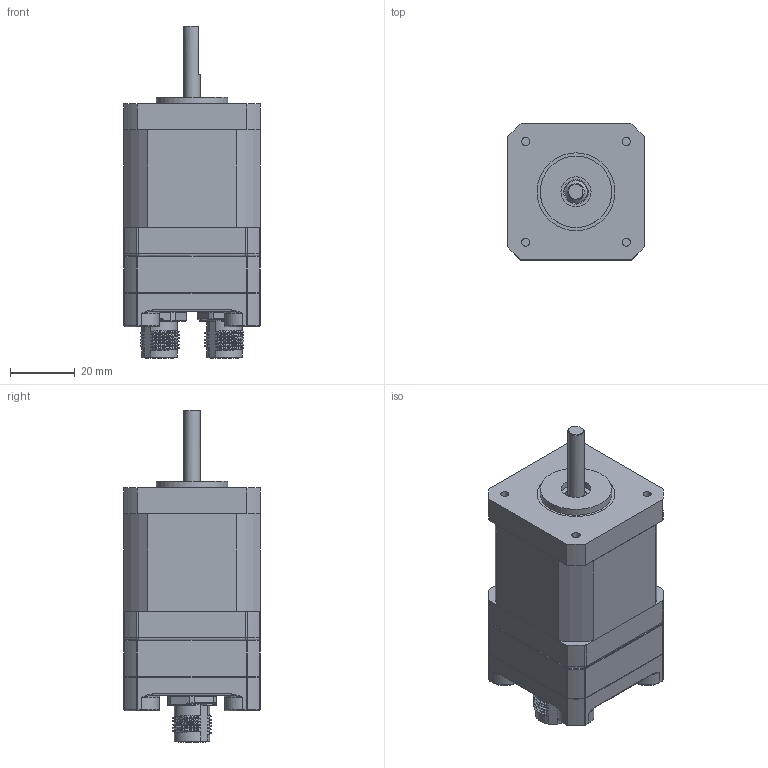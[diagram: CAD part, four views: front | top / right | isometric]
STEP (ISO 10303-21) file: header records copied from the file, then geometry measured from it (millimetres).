
FILE_DESCRIPTION (( 'STEP AP214' ), '1' );
FILE_NAME ('M42SH47 BAO.STEP', '2021-11-30T11:16:23', ( '' ), ( '' ), 'SwSTEP 2.0', 'SolidWorks 2019', '' );
FILE_SCHEMA (( 'AUTOMOTIVE_DESIGN' ));
Length unit declared in the file: millimetre
Products named in the file (16): 1416145_bz; BS-05P2NN2000G_SW0001; 1457526; SKF_625-Z; Statore M42SH47 BAO; TBEO17; 1416145; Albero M42SH47 BAO; pan head cross recess screw_din_DIN EN ISO 7045 - M3 x 6 - Z - 6N; SKF_607-Z; VITCCS-M3-509-FM BAO; Flangia A 42 BAO; 1457555; TBEO17_P; M42SH47 BAO; Flangia P 42 BAO
Assembly tree (21 placements, depth 3):
  M42SH47 BAO
    Flangia A 42 BAO
    SKF_607-Z
    SKF_625-Z
    Flangia P 42 BAO
    TBEO17
    TBEO17_P
    pan head cross recess screw_din_DIN EN ISO 7045 - M3 x 6 - Z - 6N  x4
    1416145
    1457526
      BS-05P2NN2000G_SW0001
    1457555
    1416145_bz
    Statore M42SH47 BAO
    Albero M42SH47 BAO
    VITCCS-M3-509-FM BAO  x4
Bounding box: 42 x 42 x 102.3 mm (x, y, z)
Volume: 52837.5 mm3; surface area: 51922.1 mm2
Topology: 48 solids, 48 shells, 3323 faces, 8406 edges, 5331 vertices
Faces by surface type: plane 1307, bspline 837, cylinder 698, torus 331, cone 112, sphere 38
Full cylindrical faces by diameter (mm): 0.217 x1, 0.28 x1, 0.75 x2, 0.8 x16, 0.85 x1, 1 x10, 1.3 x1, 1.9 x3, 2 x4, 2.5 x8, 3 x4, 3.1 x4, 3.2 x8, 3.4 x4, 3.8 x4, 4.8 x4, 5 x7, 5.5 x4, 5.6 x4, 6 x5, 7 x2, 7.3 x4, 8 x4, 8.3 x2, 8.4 x3, 8.6 x1, 8.7 x4, 9.25 x1, 9.3 x4, 9.4 x2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
Entity records: 167079 total; most frequent: CARTESIAN_POINT 91737, ORIENTED_EDGE 14756, DIRECTION 11941, EDGE_CURVE 7378, VERTEX_POINT 4864, AXIS2_PLACEMENT_3D 4200, EDGE_LOOP 3740, VECTOR 3541
